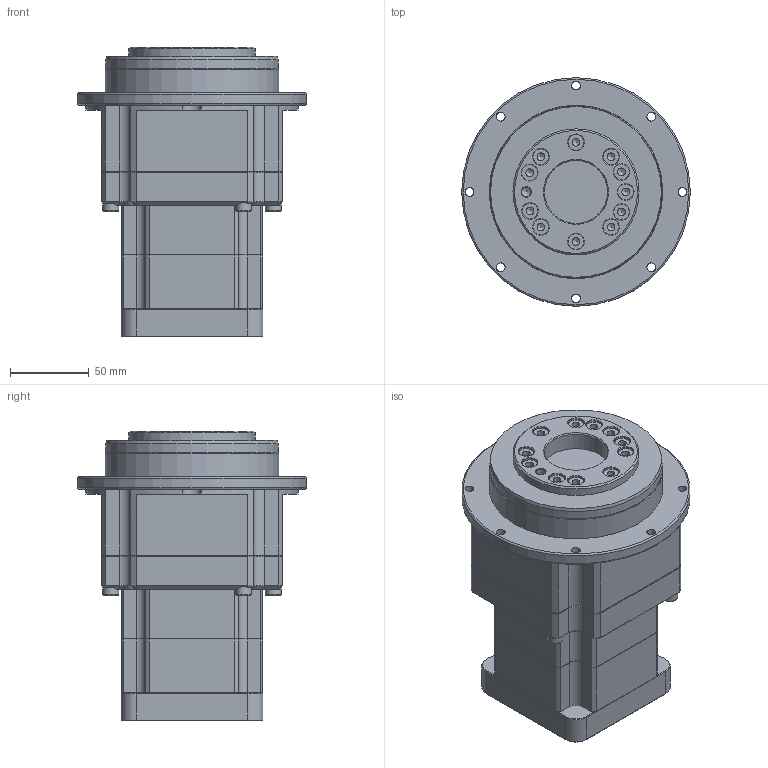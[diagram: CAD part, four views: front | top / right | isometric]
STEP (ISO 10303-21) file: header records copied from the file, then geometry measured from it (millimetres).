
FILE_DESCRIPTION((''),'2;1');
FILE_NAME('D:\유성\유성\도면\3D\2. 홈페이지용 3D 도면 (ipt)\외부도\SPIFH115\SPIFH115 DOWN\SPIFH115D SERIES (2 STAGE-A TYPE)_Shrinkwrap_1.stp','2014-05-08T15:06:08',('nagyu'),(''),'Autodesk Inventor 2013','Autodesk Inventor 2013','');
FILE_SCHEMA(('AUTOMOTIVE_DESIGN { 1 0 10303 214 1 1 1 1 }'));
Length unit declared in the file: millimetre
Products named in the file (1): SPIFH115D SERIES (2 STAGE-A TYPE)_Shrinkwrap_1
Bounding box: 145 x 145 x 183.9 mm (x, y, z)
Volume: 1665685.2 mm3; surface area: 125738.7 mm2
Topology: 1 solids, 9 shells, 512 faces, 1208 edges, 744 vertices
Faces by surface type: plane 248, cylinder 135, cone 111, torus 18
Full cylindrical faces by diameter (mm): 4.917 x15, 5 x4, 5.5 x12, 6 x5, 6.6 x4, 8.5 x4, 9.5 x4, 10 x16, 11 x4, 19 x1, 22 x1, 40 x1, 64 x1, 70 x1, 80 x1, 109.4 x1, 110 x1, 145 x1
Entity records: 13605 total; most frequent: CARTESIAN_POINT 2602, DIRECTION 2314, ORIENTED_EDGE 2020, EDGE_CURVE 1010, AXIS2_PLACEMENT_3D 920, EDGE_LOOP 718, VERTEX_POINT 686, FACE_OUTER_BOUND 512
